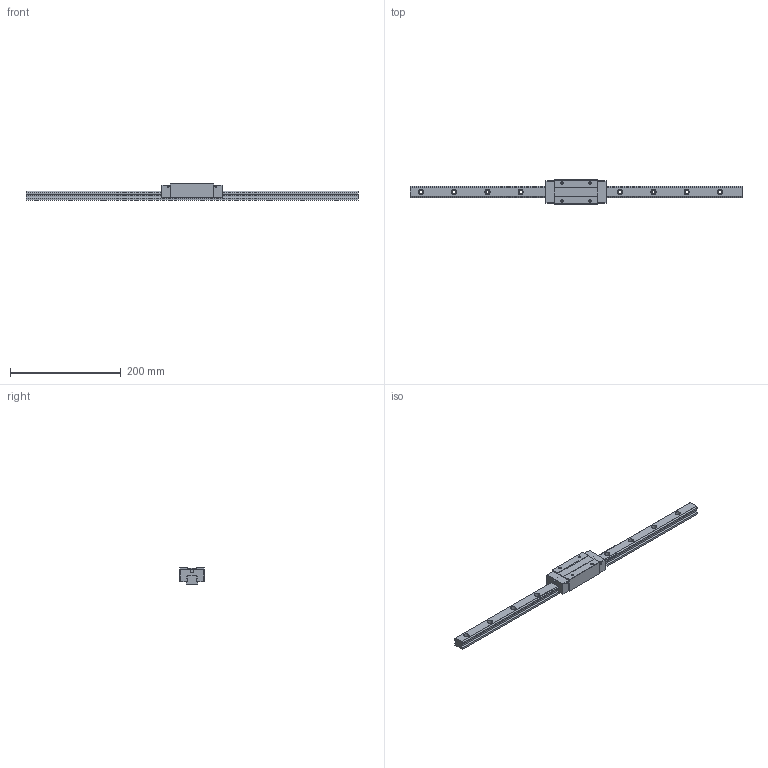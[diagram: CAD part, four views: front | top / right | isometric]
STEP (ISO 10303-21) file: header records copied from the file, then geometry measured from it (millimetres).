
FILE_DESCRIPTION (( 'STEP AP203' ), '1' );
FILE_NAME ('TRH20VE-ZN.STEP', '2024-05-23T03:17:14', ( '' ), ( '' ), 'SwSTEP 2.0', 'SolidWorks 2022', '' );
FILE_SCHEMA (( 'CONFIG_CONTROL_DESIGN' ));
Length unit declared in the file: millimetre
Products named in the file (1): TRH20VE-ZN
Bounding box: 600 x 44 x 30 mm (x, y, z)
Volume: 259937.4 mm3; surface area: 69498 mm2
Topology: 2 solids, 2 shells, 196 faces, 512 edges, 332 vertices
Faces by surface type: cylinder 96, plane 84, cone 16
Entity records: 6127 total; most frequent: DIRECTION 1098, CARTESIAN_POINT 1033, ORIENTED_EDGE 1008, EDGE_CURVE 504, AXIS2_PLACEMENT_3D 397, VERTEX_POINT 332, VECTOR 304, LINE 304
